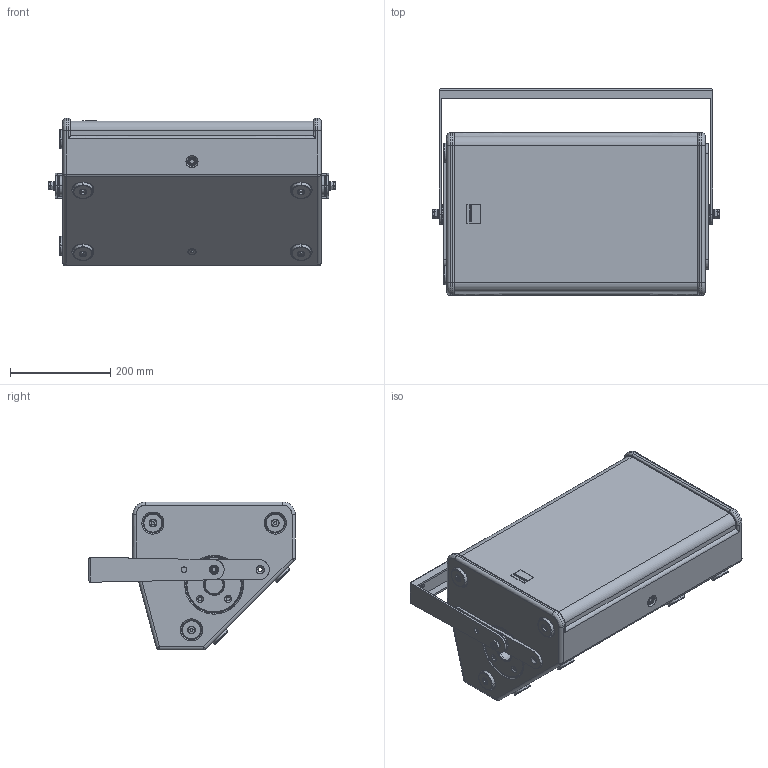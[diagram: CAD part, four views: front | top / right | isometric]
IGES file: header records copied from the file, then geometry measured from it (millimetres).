
Start section: SolidWorks IGES file using analytic representation for surfaces
Global section: file name: C:\Dokumente und Einstellungen\PC_Fabian\Desktop\TS-Serie\Seeburg_TSM10_Bracket_hor.IGS; native system: SolidWorks 2009; preprocessor: SolidWorks 2009; author: PC_Fabian; date: 121017.141346; units: millimetre
Bounding box: 572.46 x 412 x 295 mm (x, y, z)
Surface area: 1656253 mm2 (no closed solid volume)
Topology: 0 solids, 0 shells, 958 faces, 13844 edges, 13834 vertices
Faces by surface type: revolution 511, bspline 447
